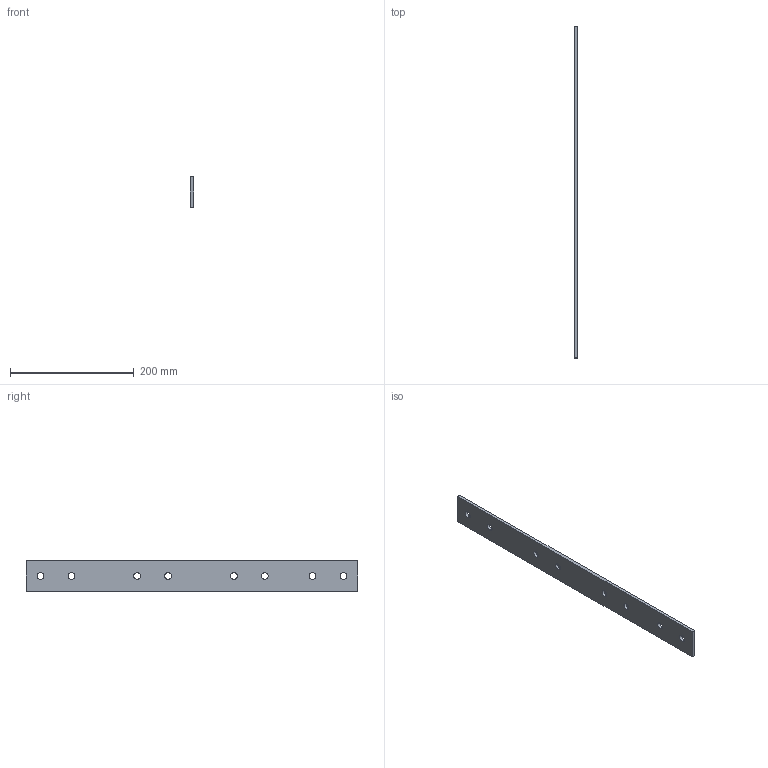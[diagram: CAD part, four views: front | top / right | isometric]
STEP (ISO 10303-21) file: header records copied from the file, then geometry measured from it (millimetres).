
FILE_DESCRIPTION (( 'STEP AP214' ), '1' );
FILE_NAME ('FO-00-DISB-200-005 Ïðîñòàâêà äèýëåêòðè÷åñêàÿ ïðîìåæóòî÷íàÿ ñáîðíûõ øèí 2000õ50õ5.STEP', '2025-08-19T12:56:46', ( '' ), ( '' ), 'SwSTEP 2.0', 'SolidWorks 2023', '' );
FILE_SCHEMA (( 'AUTOMOTIVE_DESIGN' ));
Length unit declared in the file: millimetre
Products named in the file (1): FO-00-DISB-200-005 Проставка диэлектрическая промежуточная сборных шин 2000х50х5
Bounding box: 5 x 537.5 x 50 mm (x, y, z)
Volume: 130573.7 mm3; surface area: 59486.8 mm2
Topology: 1 solids, 1 shells, 22 faces, 60 edges, 40 vertices
Faces by surface type: cylinder 16, plane 6
Entity records: 771 total; most frequent: DIRECTION 138, CARTESIAN_POINT 123, ORIENTED_EDGE 120, EDGE_CURVE 60, AXIS2_PLACEMENT_3D 55, VERTEX_POINT 40, EDGE_LOOP 38, CIRCLE 32
